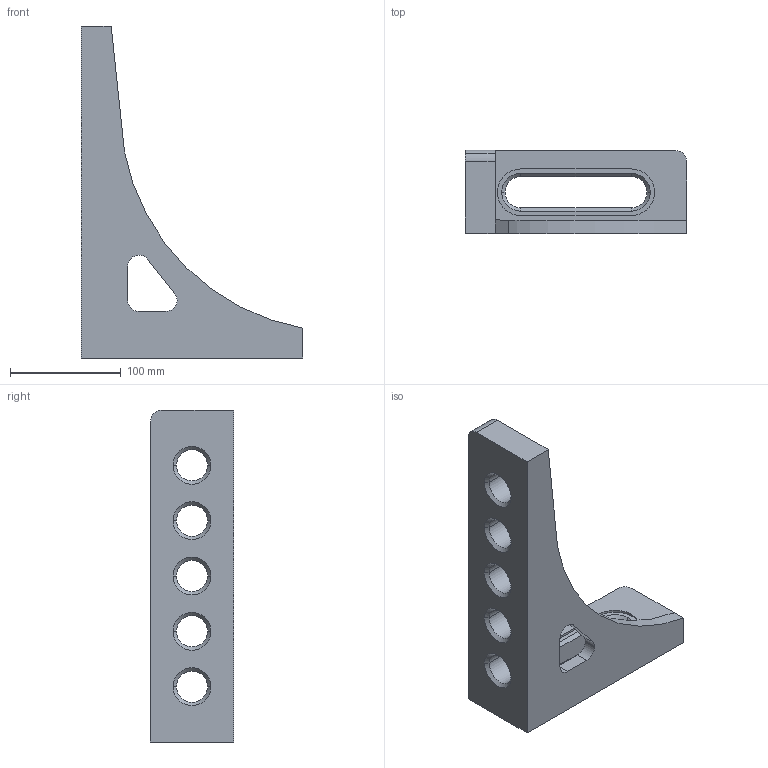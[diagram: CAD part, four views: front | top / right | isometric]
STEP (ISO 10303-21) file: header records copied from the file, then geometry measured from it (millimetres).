
FILE_DESCRIPTION(('STEP AP214'),'1');
FILE_NAME('C:/Users/E.Bergmann/Desktop/Formate Neu/280152.STP','2011-08-30T11:13:18',(' '),(' '),'Spatial InterOp 3D',' ',' ');
FILE_SCHEMA(('automotive_design'));
Length unit declared in the file: millimetre
Products named in the file (1): Quader
Bounding box: 200 x 75 x 300 mm (x, y, z)
Volume: 861384.1 mm3; surface area: 122481 mm2
Topology: 1 solids, 1 shells, 92 faces, 218 edges, 134 vertices
Faces by surface type: cylinder 37, cone 28, plane 27
Entity records: 3441 total; most frequent: DIRECTION 506, CARTESIAN_POINT 445, ORIENTED_EDGE 436, EDGE_CURVE 218, AXIS2_PLACEMENT_3D 195, VERTEX_POINT 134, LINE 116, VECTOR 116
